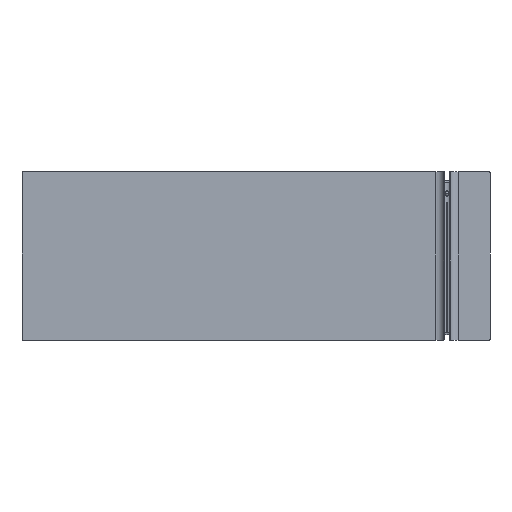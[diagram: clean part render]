
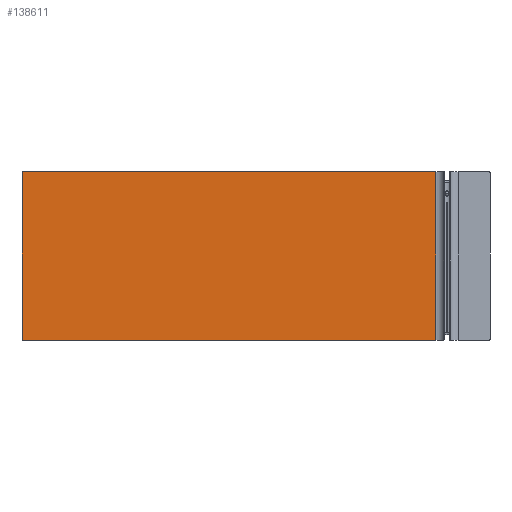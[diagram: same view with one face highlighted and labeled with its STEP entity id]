
A CAD part, top view. The second image highlights one B-rep face of the part: STEP entity #138611.
In plain terms, the highlighted planar face has unit normal (0, 0, 1).
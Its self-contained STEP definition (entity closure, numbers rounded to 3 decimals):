
#138335 = VERTEX_POINT('',#138336);
#138336 = CARTESIAN_POINT('',(3.,-225.,1.5));
#138342 = EDGE_CURVE('',#138343,#138335,#138345,.T.);
#138343 = VERTEX_POINT('',#138344);
#138344 = CARTESIAN_POINT('',(1105.,-225.,1.5));
#138345 = LINE('',#138346,#138347);
#138346 = CARTESIAN_POINT('',(1105.,-225.,1.5));
#138347 = VECTOR('',#138348,1.);
#138348 = DIRECTION('',(-1.,0.,0.));
#138365 = EDGE_CURVE('',#138366,#138335,#138368,.T.);
#138366 = VERTEX_POINT('',#138367);
#138367 = CARTESIAN_POINT('',(0.,-222.,1.5));
#138368 = CIRCLE('',#138369,3.);
#138369 = AXIS2_PLACEMENT_3D('',#138370,#138371,#138372);
#138370 = CARTESIAN_POINT('',(3.,-222.,1.5));
#138371 = DIRECTION('',(0.,0.,1.));
#138372 = DIRECTION('',(-1.,0.,0.));
#138390 = VERTEX_POINT('',#138391);
#138391 = CARTESIAN_POINT('',(0.,222.,1.5));
#138397 = EDGE_CURVE('',#138366,#138390,#138398,.T.);
#138398 = LINE('',#138399,#138400);
#138399 = CARTESIAN_POINT('',(0.,-222.,1.5));
#138400 = VECTOR('',#138401,1.);
#138401 = DIRECTION('',(0.,1.,0.));
#138414 = EDGE_CURVE('',#138415,#138390,#138417,.T.);
#138415 = VERTEX_POINT('',#138416);
#138416 = CARTESIAN_POINT('',(3.,225.,1.5));
#138417 = CIRCLE('',#138418,3.);
#138418 = AXIS2_PLACEMENT_3D('',#138419,#138420,#138421);
#138419 = CARTESIAN_POINT('',(3.,222.,1.5));
#138420 = DIRECTION('',(0.,-0.,1.));
#138421 = DIRECTION('',(0.,1.,0.));
#138440 = VERTEX_POINT('',#138441);
#138441 = CARTESIAN_POINT('',(1105.,225.,1.5));
#138447 = EDGE_CURVE('',#138440,#138415,#138448,.T.);
#138448 = LINE('',#138449,#138450);
#138449 = CARTESIAN_POINT('',(1105.,225.,1.5));
#138450 = VECTOR('',#138451,1.);
#138451 = DIRECTION('',(-1.,0.,0.));
#138570 = EDGE_CURVE('',#138343,#138440,#138571,.T.);
#138571 = LINE('',#138572,#138573);
#138572 = CARTESIAN_POINT('',(1105.,-225.,1.5));
#138573 = VECTOR('',#138574,1.);
#138574 = DIRECTION('',(0.,1.,0.));
#138611 = ADVANCED_FACE('',(#138612),#138620,.F.);
#138612 = FACE_BOUND('',#138613,.F.);
#138613 = EDGE_LOOP('',(#138614,#138615,#138616,#138617,#138618,#138619)
  );
#138614 = ORIENTED_EDGE('',*,*,#138342,.T.);
#138615 = ORIENTED_EDGE('',*,*,#138365,.F.);
#138616 = ORIENTED_EDGE('',*,*,#138397,.T.);
#138617 = ORIENTED_EDGE('',*,*,#138414,.F.);
#138618 = ORIENTED_EDGE('',*,*,#138447,.F.);
#138619 = ORIENTED_EDGE('',*,*,#138570,.F.);
#138620 = PLANE('',#138621);
#138621 = AXIS2_PLACEMENT_3D('',#138622,#138623,#138624);
#138622 = CARTESIAN_POINT('',(1105.,-225.,1.5));
#138623 = DIRECTION('',(0.,0.,-1.));
#138624 = DIRECTION('',(-1.,0.,0.));
